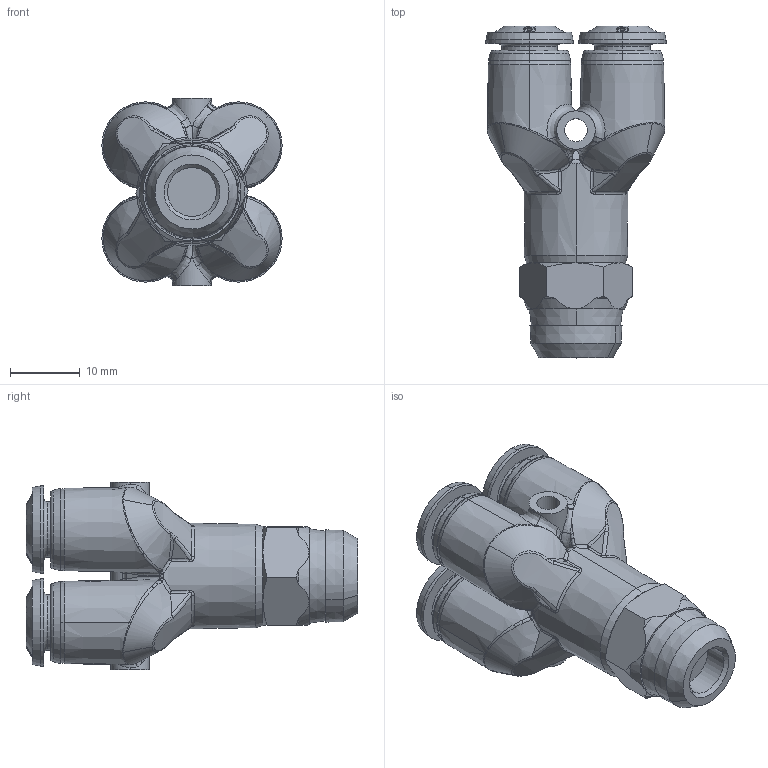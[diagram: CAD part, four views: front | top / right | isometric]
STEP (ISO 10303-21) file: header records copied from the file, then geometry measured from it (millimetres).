
FILE_DESCRIPTION (( 'STEP AP214' ), '1' );
FILE_NAME ('5534000004.step', '2012-10-02T17:48:17', ( '' ), ( '' ), 'SwSTEP 2.0', 'SolidWorks 2012', '' );
FILE_SCHEMA (( 'AUTOMOTIVE_DESIGN' ));
Length unit declared in the file: millimetre
Products named in the file (1): 5534000004
Bounding box: 25.8 x 47.5 x 26.8 mm (x, y, z)
Volume: 12455.1 mm3; surface area: 6407.4 mm2
Topology: 1 solids, 7 shells, 856 faces, 2200 edges, 1365 vertices
Faces by surface type: bspline 418, cone 211, plane 88, cylinder 81, torus 39, sphere 19
Entity records: 54507 total; most frequent: CARTESIAN_POINT 28431, ORIENTED_EDGE 4306, DIRECTION 2249, EDGE_CURVE 2153, VERTEX_POINT 1350, B_SPLINE_CURVE_WITH_KNOTS 1333, AXIS2_PLACEMENT_3D 996, EDGE_LOOP 897
